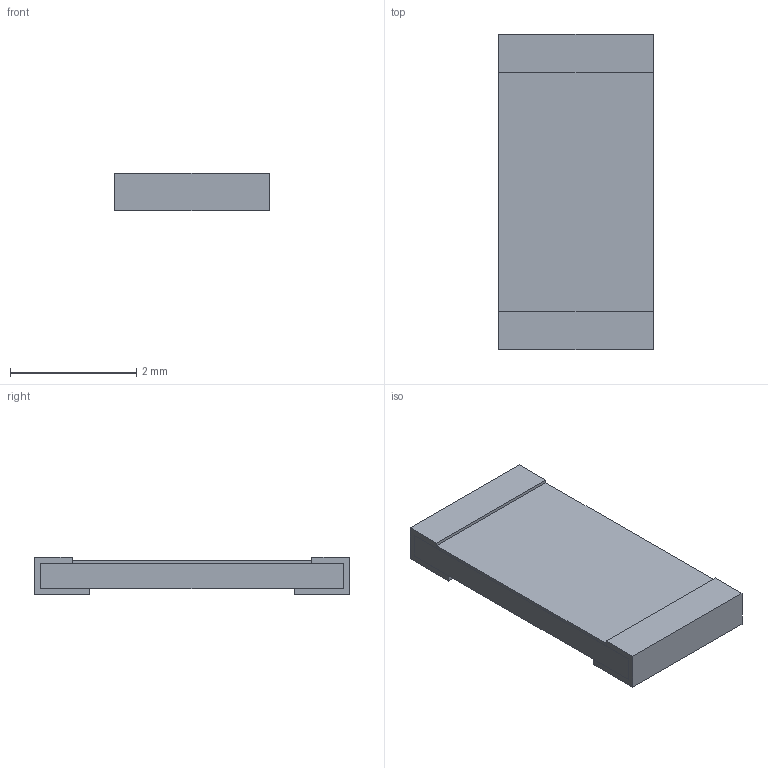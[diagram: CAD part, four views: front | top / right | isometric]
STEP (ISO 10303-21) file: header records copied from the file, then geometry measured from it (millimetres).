
FILE_DESCRIPTION(('FreeCAD Model'),'2;1');
FILE_NAME('Open CASCADE Shape Model','2025-01-27T19:06:12',( 'Krisjanis Rijnieks'),(''),'Open CASCADE STEP processor 7.7', 'FreeCAD','Unknown');
FILE_SCHEMA(('AUTOMOTIVE_DESIGN { 1 0 10303 214 1 1 1 1 }'));
Length unit declared in the file: millimetre
Products named in the file (5): 2010; Body2010; Contact2010; Contact2010 Clone; Coating2010
Assembly tree (4 placements, depth 2):
  2010
    Body2010
    Contact2010
    Contact2010 Clone
    Coating2010
Bounding box: 2.45 x 5 x 0.6 mm (x, y, z)
Volume: 6.1 mm3; surface area: 68.7 mm2
Topology: 4 solids, 4 shells, 32 faces, 72 edges, 48 vertices
Faces by surface type: plane 32
Entity records: 996 total; most frequent: CARTESIAN_POINT 157, DIRECTION 146, ORIENTED_EDGE 144, EDGE_CURVE 72, LINE 72, VECTOR 72, VERTEX_POINT 48, AXIS2_PLACEMENT_3D 37
